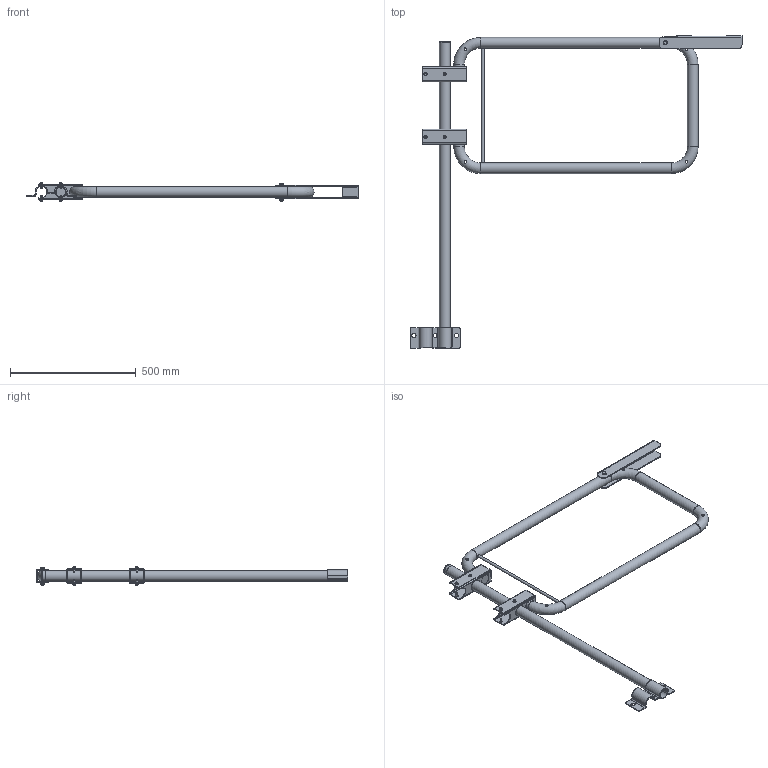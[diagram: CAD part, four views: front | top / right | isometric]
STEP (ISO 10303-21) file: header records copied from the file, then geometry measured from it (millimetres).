
FILE_DESCRIPTION((''),'2;1');
FILE_NAME('S:\Användarkataloger\AndreasA\Mina Inventor filer\Räcken\STEP\grind_ind_sido_1050.stp','2010-09-07T14:03:15',('AndreasA'),(''),'Autodesk Inventor 2011','Autodesk Inventor 2011','');
FILE_SCHEMA(('AUTOMOTIVE_DESIGN { 1 0 10303 214 1 1 1 1 }'));
Length unit declared in the file: millimetre
Products named in the file (14): grind_ind_sido_1050; stolpe_grind_1216; ändavslutare_42,4x2; gångjärn_grind; grindbåge_ind_1050; rör_grindbåge_ind_1050; rund11_grindbåge_ind; låsbygel_grind; fäste_r2; Bolted Connection; SS 3576 8; ISO 4014 M8 x 65; ISO 4032 M8; Hex Flange Head Tapping Screw - Type T - Metric M6x1 x 16
Assembly tree (22 placements, depth 3):
  grind_ind_sido_1050
    stolpe_grind_1216
    ändavslutare_42,4x2
    gångjärn_grind  x2
    grindbåge_ind_1050
      rör_grindbåge_ind_1050
      rund11_grindbåge_ind
    låsbygel_grind
    fäste_r2
    Bolted Connection
      SS 3576 8  x2
      ISO 4014 M8 x 65
      ISO 4032 M8
    Hex Flange Head Tapping Screw - Type T - Metric M6x1 x 16  x8
Bounding box: 1322.7 x 1243 x 73.4 mm (x, y, z)
Volume: 1445278.7 mm3; surface area: 1236319.6 mm2
Topology: 20 solids, 20 shells, 396 faces, 918 edges, 569 vertices
Faces by surface type: plane 181, cylinder 109, cone 75, torus 25, bspline 6
Full cylindrical faces by diameter (mm): 6 x8, 6.647 x1, 7 x8, 8 x1, 8.4 x2, 10 x12, 11 x1, 11.63 x1, 14.5 x1, 16 x2, 38.4 x7, 42.4 x7, 45 x6
Entity records: 7830 total; most frequent: CARTESIAN_POINT 2468, DIRECTION 1064, ORIENTED_EDGE 932, EDGE_CURVE 466, AXIS2_PLACEMENT_3D 422, EDGE_LOOP 336, VERTEX_POINT 328, FACE_OUTER_BOUND 220
